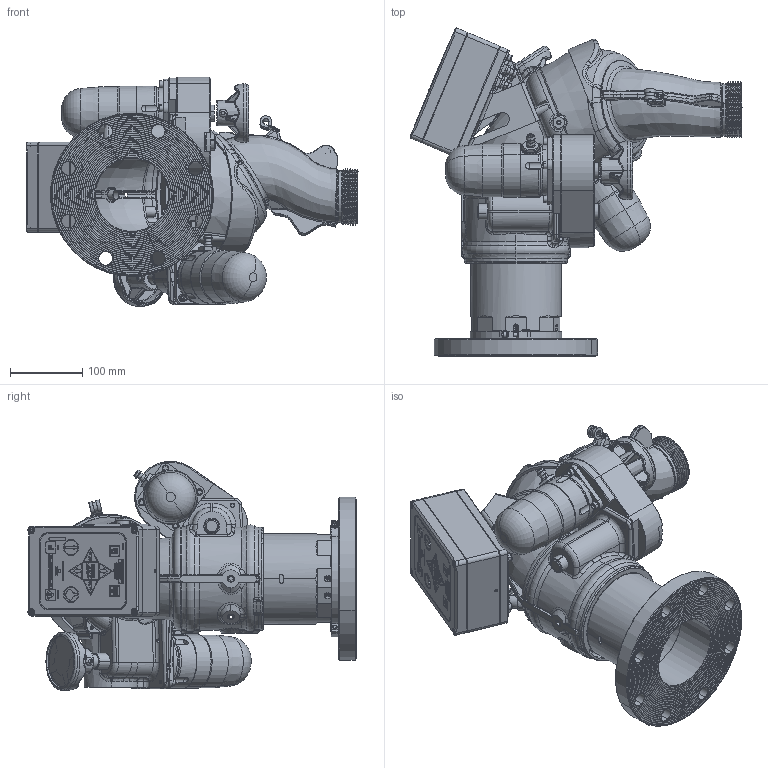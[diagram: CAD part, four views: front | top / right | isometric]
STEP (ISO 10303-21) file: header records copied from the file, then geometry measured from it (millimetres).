
FILE_DESCRIPTION (( 'STEP AP203' ), '1' );
FILE_NAME ('Y4-E25A-L_Horizontal.STEP', '2016-06-08T11:18:07', ( '' ), ( '' ), 'SwSTEP 2.0', 'SolidWorks 2015', '' );
FILE_SCHEMA (( 'CONFIG_CONTROL_DESIGN' ));
Products named in the file (1): Y4-E25A-L_Horizontal
Bounding box: 459.8 x 454.29 x 317.62 mm (x, y, z)
Surface area: 926863.2 mm2 (no closed solid volume)
Topology: 0 solids, 243 shells, 2814 faces, 11490 edges, 8722 vertices
Faces by surface type: plane 836, cylinder 667, bspline 552, torus 450, cone 291, sphere 18
Entity records: 186613 total; most frequent: CARTESIAN_POINT 100592, ORIENTED_EDGE 17008, DIRECTION 15484, EDGE_CURVE 11473, VERTEX_POINT 8722, AXIS2_PLACEMENT_3D 5303, VECTOR 4878, LINE 4878
